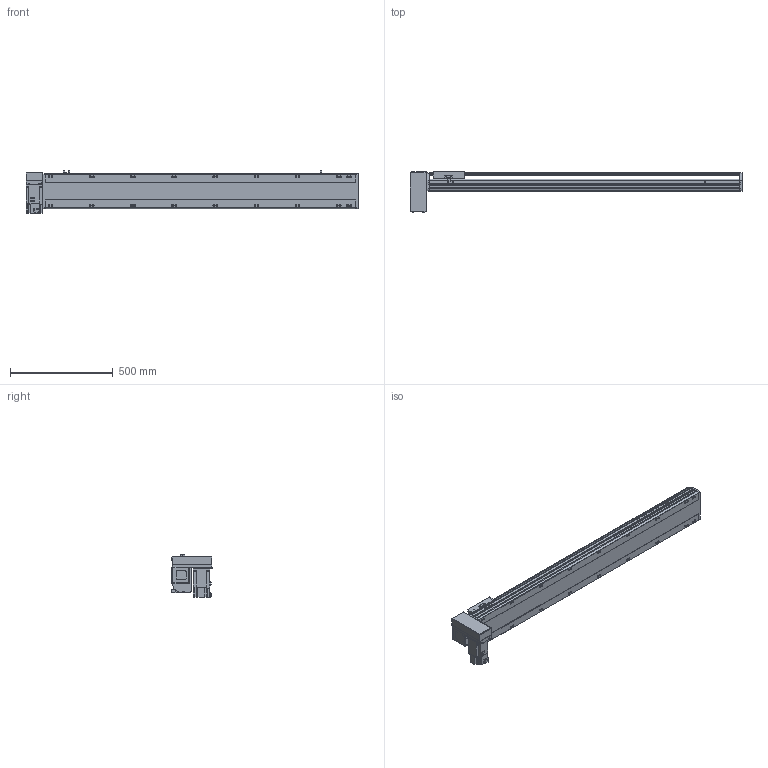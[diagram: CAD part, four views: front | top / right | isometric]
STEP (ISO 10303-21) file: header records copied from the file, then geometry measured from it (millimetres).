
FILE_DESCRIPTION( ( 'STEP AP214' ), '1' );
FILE_NAME( 'x:/temp/worker_5/temp/exporttempdir_3988_32_b0yjp/format_0/PBS170-P40-S1250-RD-T75-C1-N(0).stp', '2022-06-08T05:35:53', ( 'License CC BY-ND 4.0' ), ( 'CADENAS' ), ' ', 'PARTsolutions', ' ' );
FILE_SCHEMA( ( 'AUTOMOTIVE_DESIGN { 1 0 10303 214 1 1 1 1 }' ) );
Length unit declared in the file: millimetre
Products named in the file (7): PBS170-P40-S1250-RD-T75-C1-N(0); _PBS170-S1250()_body; _PBS170T-RD_motors; _T75-p1; _PBS170_sliser; _PBS170_plant; _PBS170_sensor
Assembly tree (8 placements, depth 2):
  PBS170-P40-S1250-RD-T75-C1-N(0)
    _PBS170-S1250()_body
    _PBS170T-RD_motors
    _T75-p1
    _PBS170_sliser
    _PBS170_plant
    _PBS170_sensor  x3
Bounding box: 1613 x 201 x 205.3 mm (x, y, z)
Volume: 12769007.5 mm3; surface area: 1656160.5 mm2
Topology: 8 solids, 8 shells, 1098 faces, 2915 edges, 1900 vertices
Faces by surface type: plane 693, cylinder 347, cone 48, sphere 8, torus 2
Full cylindrical faces by diameter (mm): 3.242 x4, 4 x2, 4.4 x4, 4.5 x6, 4.917 x4, 6 x9, 6.647 x26, 7 x2, 7.5 x4, 8 x8, 8.5 x18, 10 x4, 10.5 x18, 11 x2, 30 x2, 40 x1, 70 x1
Entity records: 40382 total; most frequent: CARTESIAN_POINT 6389, DIRECTION 5370, ORIENTED_EDGE 5088, EDGE_CURVE 2544, AXIS2_PLACEMENT_3D 1867, VERTEX_POINT 1754, LINE 1636, VECTOR 1636
